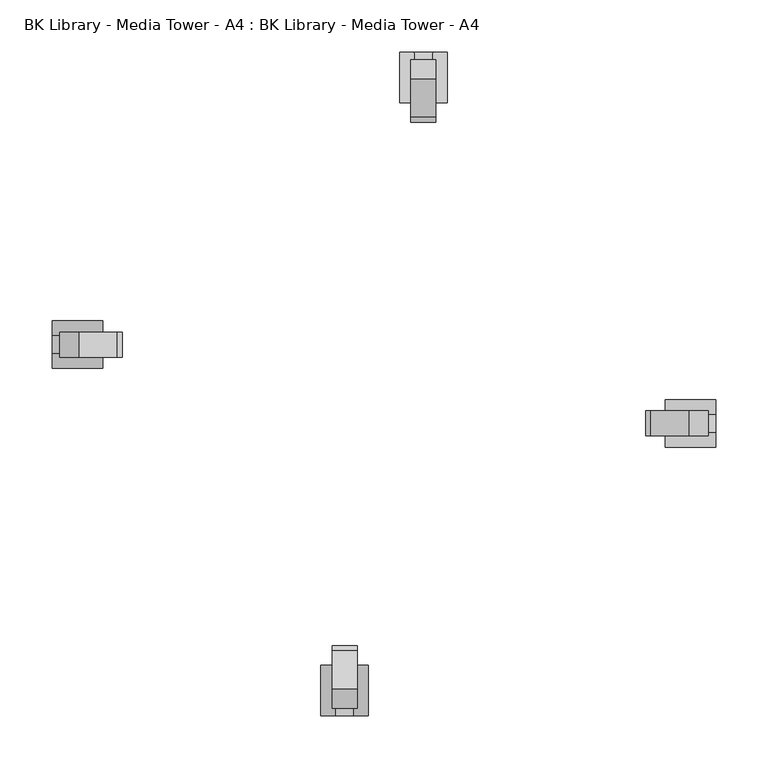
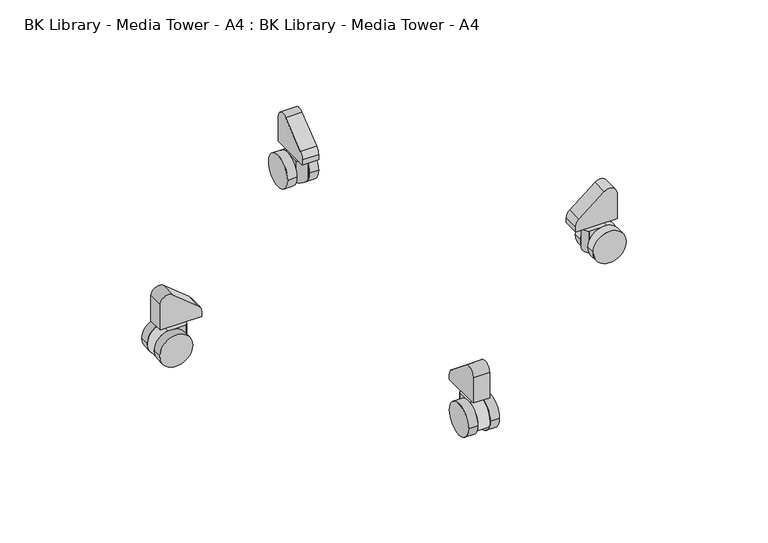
"""IFC4 building model written with IfcOpenShell, lengths in millimetres: furniture geometry, BK Library - Media Tower - A4 : BK Library - Media Tower - A4."""

from ifc_helpers import new_model, si_unit, point, frame, frame_2d, origin, place, context, project, spatial, polyline, circle_curve, trimmed, segment, composite_curve, outline, extrude, source, transform, mapped, element, save
from ifc_brep_helpers import plane_surface, cylinder_surface, advanced_brep


def bk_library_media_tower_a4_bk_library_media_tower_a4_1ec3d4eb(model_context):
    return source(origin(), model_context, "Body", "SolidModel", [
        advanced_brep(
        [(-60.25, -268.9172351, 24.0), (-60.25, -314.9920939, 14.5818999), (-60.25, -316.9172351, 24.0), (-60.25, -296.8361443, 47.6778831), (-46.75, -268.9172351, 24.0), (-46.75, -296.8361443, 47.6778831), (-46.75, -316.9172351, 24.0), (-46.75, -314.9920939, 14.5818999)],
        [
            (0, 1, circle_curve(frame((-60.25, -292.9172351, 24.0), z_axis=(-1.0, 0.0, 0.0), x_axis=(0.0, -1.0, 0.0)), 24.0)),
            (1, 2, circle_curve(frame((-60.25, -292.9172351, 24.0), z_axis=(-1.0, 0.0, 0.0), x_axis=(0.0, -1.0, 0.0)), 24.0)),
            (2, 3, circle_curve(frame((-60.25, -292.9172351, 24.0), z_axis=(-1.0, 0.0, 0.0), x_axis=(0.0, -1.0, 0.0)), 24.0)),
            (3, 0, circle_curve(frame((-60.25, -292.9172351, 24.0), z_axis=(-1.0, 0.0, 0.0), x_axis=(0.0, -1.0, 0.0)), 24.0)),
            (4, 5, circle_curve(frame((-46.75, -292.9172351, 24.0), z_axis=(1.0, 0.0, 0.0), x_axis=(0.0, -1.0, 0.0)), 24.0)),
            (5, 6, circle_curve(frame((-46.75, -292.9172351, 24.0), z_axis=(1.0, 0.0, 0.0), x_axis=(0.0, -1.0, 0.0)), 24.0)),
            (6, 7, circle_curve(frame((-46.75, -292.9172351, 24.0), z_axis=(1.0, 0.0, 0.0), x_axis=(0.0, -1.0, 0.0)), 24.0)),
            (7, 4, circle_curve(frame((-46.75, -292.9172351, 24.0), z_axis=(1.0, 0.0, 0.0), x_axis=(0.0, -1.0, 0.0)), 24.0)),
            (0, 4),
            (6, 2),
        ],
        [
            plane_surface(frame((-60.25, -316.9172351, 24.0), z_axis=(-1.0, 0.0, 0.0), x_axis=(0.0, 0.0, 1.0))),
            plane_surface(frame((-46.75, -316.9172351, 24.0), z_axis=(1.0, 0.0, 0.0), x_axis=(0.0, 0.0, -1.0))),
            cylinder_surface(frame((-46.75, -292.9172351, 24.0), z_axis=(-1.0, 0.0, 0.0), x_axis=(0.0, -1.0, 0.0)), 24.0),
        ],
        [
            (0, [[1, 2, 3, 4]]),
            (1, [[5, 6, 7, 8]]),
            (2, [[9, -8, -7, 10, -2, -1]]),
            (2, [[-9, -4, -3, -10, -6, -5]]),
        ],
    ),
        advanced_brep(
        [(-28.75, -268.9172351, 24.0), (-28.75, -314.9920939, 14.5818999), (-28.75, -316.9172351, 24.0), (-28.75, -296.8361443, 47.6778831), (-15.25, -268.9172351, 24.0), (-15.25, -296.8361443, 47.6778831), (-15.25, -316.9172351, 24.0), (-15.25, -314.9920939, 14.5818999)],
        [
            (0, 1, circle_curve(frame((-28.75, -292.9172351, 24.0), z_axis=(-1.0, 0.0, 0.0), x_axis=(0.0, -1.0, 0.0)), 24.0)),
            (1, 2, circle_curve(frame((-28.75, -292.9172351, 24.0), z_axis=(-1.0, 0.0, 0.0), x_axis=(0.0, -1.0, 0.0)), 24.0)),
            (2, 3, circle_curve(frame((-28.75, -292.9172351, 24.0), z_axis=(-1.0, 0.0, 0.0), x_axis=(0.0, -1.0, 0.0)), 24.0)),
            (3, 0, circle_curve(frame((-28.75, -292.9172351, 24.0), z_axis=(-1.0, 0.0, 0.0), x_axis=(0.0, -1.0, 0.0)), 24.0)),
            (4, 5, circle_curve(frame((-15.25, -292.9172351, 24.0), z_axis=(1.0, 0.0, 0.0), x_axis=(0.0, -1.0, 0.0)), 24.0)),
            (5, 6, circle_curve(frame((-15.25, -292.9172351, 24.0), z_axis=(1.0, 0.0, 0.0), x_axis=(0.0, -1.0, 0.0)), 24.0)),
            (6, 7, circle_curve(frame((-15.25, -292.9172351, 24.0), z_axis=(1.0, 0.0, 0.0), x_axis=(0.0, -1.0, 0.0)), 24.0)),
            (7, 4, circle_curve(frame((-15.25, -292.9172351, 24.0), z_axis=(1.0, 0.0, 0.0), x_axis=(0.0, -1.0, 0.0)), 24.0)),
            (0, 4),
            (6, 2),
        ],
        [
            plane_surface(frame((-28.75, -316.9172351, 24.0), z_axis=(-1.0, 0.0, 0.0), x_axis=(0.0, 0.0, 1.0))),
            plane_surface(frame((-15.25, -316.9172351, 24.0), z_axis=(1.0, 0.0, 0.0), x_axis=(0.0, 0.0, -1.0))),
            cylinder_surface(frame((-15.25, -292.9172351, 24.0), z_axis=(-1.0, 0.0, 0.0), x_axis=(0.0, -1.0, 0.0)), 24.0),
        ],
        [
            (0, [[1, 2, 3, 4]]),
            (1, [[5, 6, 7, 8]]),
            (2, [[9, -8, -7, 10, -2, -1]]),
            (2, [[-9, -4, -3, -10, -6, -5]]),
        ],
    ),
        advanced_brep(
        [(-28.75, -271.5561553, 47.6778831), (-29.125, -270.5639985, 47.6778831), (-46.375, -270.5639985, 47.6778831), (-46.75, -271.5561553, 47.6778831), (-46.75, -296.8361443, 47.6778831), (-28.75, -296.8361443, 47.6778831), (-46.75, -271.5561553, 14.5818999), (-46.375, -270.5639985, 14.5818999), (-29.125, -270.5639985, 14.5818999), (-28.75, -271.5561553, 14.5818999), (-28.75, -314.9920939, 14.5818999), (-46.75, -314.9920939, 14.5818999)],
        [
            (0, 1, circle_curve(frame((-30.25, -271.5561553, 47.6778831), z_axis=(0.0, 0.0, 1.0), x_axis=(0.0, -1.0, 0.0)), 1.5)),
            (1, 2, circle_curve(frame((-37.75, -278.1705336, 47.6778831), z_axis=(0.0, 0.0, 1.0), x_axis=(0.1438853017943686, -0.9895943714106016, 0.0)), 11.5)),
            (2, 3, circle_curve(frame((-45.25, -271.5561553, 47.6778831), z_axis=(0.0, 0.0, 1.0), x_axis=(0.0, -1.0, 0.0)), 1.5)),
            (3, 4),
            (4, 5),
            (5, 0),
            (6, 7, circle_curve(frame((-45.25, -271.5561553, 14.5818999), z_axis=(0.0, 0.0, -1.0), x_axis=(0.0, -1.0, 0.0)), 1.5)),
            (7, 8, circle_curve(frame((-37.75, -278.1705336, 14.5818999), z_axis=(0.0, 0.0, -1.0), x_axis=(0.1438853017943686, -0.9895943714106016, 0.0)), 11.5)),
            (8, 9, circle_curve(frame((-30.25, -271.5561553, 14.5818999), z_axis=(0.0, 0.0, -1.0), x_axis=(0.0, -1.0, 0.0)), 1.5)),
            (9, 10),
            (10, 11),
            (11, 6),
            (9, 0),
            (5, 10, circle_curve(frame((-28.75, -292.9172351, 24.0), z_axis=(1.0, 0.0, 0.0), x_axis=(0.0, -1.0, 0.0)), 24.0)),
            (1, 8),
            (7, 2),
            (3, 6),
            (11, 4, circle_curve(frame((-46.75, -292.9172351, 24.0), z_axis=(-1.0, 0.0, 0.0), x_axis=(0.0, -1.0, 0.0)), 24.0)),
        ],
        [
            plane_surface(frame((-28.75, -271.011623, 47.6778831), z_axis=(0.0, 0.0, 1.0), x_axis=(0.0, 1.0, 0.0))),
            plane_surface(frame((-28.75, -271.011623, 14.5818999), z_axis=(0.0, 0.0, -1.0), x_axis=(0.0, -1.0, 0.0))),
            plane_surface(frame((-28.75, -317.6314354, 47.6778831), z_axis=(1.0, 0.0, 0.0), x_axis=(0.0, 0.0, -1.0))),
            cylinder_surface(frame((-37.75, -278.1705336, 14.5818999), z_axis=(0.0, 0.0, 1.0000000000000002), x_axis=(0.1438853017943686, -0.9895943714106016, 0.0)), 11.5),
            plane_surface(frame((-46.75, -271.5561553, 47.6778831), z_axis=(-1.0, 0.0, 0.0), x_axis=(0.0, 0.0, -1.0))),
            cylinder_surface(frame((-30.25, -271.5561553, 14.5818999), z_axis=(0.0, 0.0, 1.0), x_axis=(0.0, -1.0, 0.0)), 1.5),
            cylinder_surface(frame((-45.25, -271.5561553, 14.5818999), z_axis=(0.0, 0.0, 1.0), x_axis=(0.0, -1.0, 0.0)), 1.5),
            cylinder_surface(frame((25.020464, -292.9172351, 24.0), z_axis=(1.0, 0.0, 0.0), x_axis=(0.0, -1.0, 0.0)), 24.0),
        ],
        [
            (0, [[1, 2, 3, 4, 5, 6]]),
            (1, [[7, 8, 9, 10, 11, 12]]),
            (2, [[13, -6, 14, -10]]),
            (3, [[-2, 15, -8, 16]]),
            (4, [[17, -12, 18, -4]]),
            (5, [[-1, -13, -9, -15]]),
            (6, [[-3, -16, -7, -17]]),
            (7, [[-5, -18, -11, -14]]),
        ],
    ),
        extrude(outline(composite_curve([segment(trimmed(circle_curve(frame_2d((-262.5018064, 63.3320803)), 12.5), [point((-254.6478241, 73.0565321))], [point((-250.0018064, 63.3316415))], False, "CARTESIAN"), True, "CONTINUOUS"), segment(polyline([(-250.0018064, 63.3316415), (-250.0020844, 55.4116211), (-310.0018064, 55.4116211), (-310.0018064, 94.1116211)]), True, "CONTINUOUS"), segment(trimmed(circle_curve(frame_2d((-298.7018064, 94.1116211)), 11.3), [point((-310.0018064, 94.1116211))], [point((-291.6018064, 102.9025255))], False, "CARTESIAN"), True, "CONTINUOUS"), segment(polyline([(-291.6018064, 102.9025255), (-254.6478241, 73.0565321)]), True, "CONTINUOUS")], self_intersect=False)), frame((-49.25, 0.0, 0.0), z_axis=(1.0, 0.0, 0.0), x_axis=(0.0, 1.0, 0.0)), (0.0, 0.0, 1.0), 23.5),
        advanced_brep(
        [(268.9172351, -60.25, 24.0), (314.9920939, -60.25, 14.5818999), (316.9172351, -60.25, 24.0), (296.8361443, -60.25, 47.6778831), (268.9172351, -46.75, 24.0), (296.8361443, -46.75, 47.6778831), (316.9172351, -46.75, 24.0), (314.9920939, -46.75, 14.5818999)],
        [
            (0, 1, circle_curve(frame((292.9172351, -60.25, 24.0), z_axis=(0.0, -1.0, 0.0), x_axis=(1.0, 0.0, 0.0)), 24.0)),
            (1, 2, circle_curve(frame((292.9172351, -60.25, 24.0), z_axis=(0.0, -1.0, 0.0), x_axis=(1.0, 0.0, 0.0)), 24.0)),
            (2, 3, circle_curve(frame((292.9172351, -60.25, 24.0), z_axis=(0.0, -1.0, 0.0), x_axis=(1.0, 0.0, 0.0)), 24.0)),
            (3, 0, circle_curve(frame((292.9172351, -60.25, 24.0), z_axis=(0.0, -1.0, 0.0), x_axis=(1.0, 0.0, 0.0)), 24.0)),
            (4, 5, circle_curve(frame((292.9172351, -46.75, 24.0), z_axis=(0.0, 1.0, 0.0), x_axis=(1.0, 0.0, 0.0)), 24.0)),
            (5, 6, circle_curve(frame((292.9172351, -46.75, 24.0), z_axis=(0.0, 1.0, 0.0), x_axis=(1.0, 0.0, 0.0)), 24.0)),
            (6, 7, circle_curve(frame((292.9172351, -46.75, 24.0), z_axis=(0.0, 1.0, 0.0), x_axis=(1.0, 0.0, 0.0)), 24.0)),
            (7, 4, circle_curve(frame((292.9172351, -46.75, 24.0), z_axis=(0.0, 1.0, 0.0), x_axis=(1.0, 0.0, 0.0)), 24.0)),
            (0, 4),
            (6, 2),
        ],
        [
            plane_surface(frame((316.9172351, -60.25, 24.0), z_axis=(0.0, -1.0, 0.0), x_axis=(0.0, 0.0, 1.0))),
            plane_surface(frame((316.9172351, -46.75, 24.0), z_axis=(0.0, 1.0, 0.0), x_axis=(0.0, 0.0, -1.0))),
            cylinder_surface(frame((292.9172351, -46.75, 24.0), z_axis=(0.0, -1.0, 0.0), x_axis=(1.0, 0.0, 0.0)), 24.0),
        ],
        [
            (0, [[1, 2, 3, 4]]),
            (1, [[5, 6, 7, 8]]),
            (2, [[9, -8, -7, 10, -2, -1]]),
            (2, [[-9, -4, -3, -10, -6, -5]]),
        ],
    ),
        advanced_brep(
        [(268.9172351, -28.75, 24.0), (314.9920939, -28.75, 14.5818999), (316.9172351, -28.75, 24.0), (296.8361443, -28.75, 47.6778831), (268.9172351, -15.25, 24.0), (296.8361443, -15.25, 47.6778831), (316.9172351, -15.25, 24.0), (314.9920939, -15.25, 14.5818999)],
        [
            (0, 1, circle_curve(frame((292.9172351, -28.75, 24.0), z_axis=(0.0, -1.0, 0.0), x_axis=(1.0, 0.0, 0.0)), 24.0)),
            (1, 2, circle_curve(frame((292.9172351, -28.75, 24.0), z_axis=(0.0, -1.0, 0.0), x_axis=(1.0, 0.0, 0.0)), 24.0)),
            (2, 3, circle_curve(frame((292.9172351, -28.75, 24.0), z_axis=(0.0, -1.0, 0.0), x_axis=(1.0, 0.0, 0.0)), 24.0)),
            (3, 0, circle_curve(frame((292.9172351, -28.75, 24.0), z_axis=(0.0, -1.0, 0.0), x_axis=(1.0, 0.0, 0.0)), 24.0)),
            (4, 5, circle_curve(frame((292.9172351, -15.25, 24.0), z_axis=(0.0, 1.0, 0.0), x_axis=(1.0, 0.0, 0.0)), 24.0)),
            (5, 6, circle_curve(frame((292.9172351, -15.25, 24.0), z_axis=(0.0, 1.0, 0.0), x_axis=(1.0, 0.0, 0.0)), 24.0)),
            (6, 7, circle_curve(frame((292.9172351, -15.25, 24.0), z_axis=(0.0, 1.0, 0.0), x_axis=(1.0, 0.0, 0.0)), 24.0)),
            (7, 4, circle_curve(frame((292.9172351, -15.25, 24.0), z_axis=(0.0, 1.0, 0.0), x_axis=(1.0, 0.0, 0.0)), 24.0)),
            (0, 4),
            (6, 2),
        ],
        [
            plane_surface(frame((316.9172351, -28.75, 24.0), z_axis=(0.0, -1.0, 0.0), x_axis=(0.0, 0.0, 1.0))),
            plane_surface(frame((316.9172351, -15.25, 24.0), z_axis=(0.0, 1.0, 0.0), x_axis=(0.0, 0.0, -1.0))),
            cylinder_surface(frame((292.9172351, -15.25, 24.0), z_axis=(0.0, -1.0, 0.0), x_axis=(1.0, 0.0, 0.0)), 24.0),
        ],
        [
            (0, [[1, 2, 3, 4]]),
            (1, [[5, 6, 7, 8]]),
            (2, [[9, -8, -7, 10, -2, -1]]),
            (2, [[-9, -4, -3, -10, -6, -5]]),
        ],
    ),
        advanced_brep(
        [(271.5561553, -28.75, 47.6778831), (270.5639985, -29.125, 47.6778831), (270.5639985, -46.375, 47.6778831), (271.5561553, -46.75, 47.6778831), (296.8361443, -46.75, 47.6778831), (296.8361443, -28.75, 47.6778831), (271.5561553, -46.75, 14.5818999), (270.5639985, -46.375, 14.5818999), (270.5639985, -29.125, 14.5818999), (271.5561553, -28.75, 14.5818999), (314.9920939, -28.75, 14.5818999), (314.9920939, -46.75, 14.5818999)],
        [
            (0, 1, circle_curve(frame((271.5561553, -30.25, 47.6778831), z_axis=(0.0, 0.0, 1.0), x_axis=(1.0, 0.0, 0.0)), 1.5)),
            (1, 2, circle_curve(frame((278.1705336, -37.75, 47.6778831), z_axis=(0.0, 0.0, 1.0), x_axis=(0.9895943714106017, 0.14388530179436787, 0.0)), 11.5)),
            (2, 3, circle_curve(frame((271.5561553, -45.25, 47.6778831), z_axis=(0.0, 0.0, 1.0), x_axis=(1.0, 0.0, 0.0)), 1.5)),
            (3, 4),
            (4, 5),
            (5, 0),
            (6, 7, circle_curve(frame((271.5561553, -45.25, 14.5818999), z_axis=(0.0, 0.0, -1.0), x_axis=(1.0, 0.0, 0.0)), 1.5)),
            (7, 8, circle_curve(frame((278.1705336, -37.75, 14.5818999), z_axis=(0.0, 0.0, -1.0), x_axis=(0.9895943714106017, 0.14388530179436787, 0.0)), 11.5)),
            (8, 9, circle_curve(frame((271.5561553, -30.25, 14.5818999), z_axis=(0.0, 0.0, -1.0), x_axis=(1.0, 0.0, 0.0)), 1.5)),
            (9, 10),
            (10, 11),
            (11, 6),
            (9, 0),
            (5, 10, circle_curve(frame((292.9172351, -28.75, 24.0), z_axis=(0.0, 1.0, 0.0), x_axis=(1.0, 0.0, 0.0)), 24.0)),
            (1, 8),
            (7, 2),
            (3, 6),
            (11, 4, circle_curve(frame((292.9172351, -46.75, 24.0), z_axis=(0.0, -1.0, 0.0), x_axis=(1.0, 0.0, 0.0)), 24.0)),
        ],
        [
            plane_surface(frame((271.011623, -28.75, 47.6778831), z_axis=(0.0, 0.0, 1.0), x_axis=(-1.0, 0.0, 0.0))),
            plane_surface(frame((271.011623, -28.75, 14.5818999), z_axis=(0.0, 0.0, -1.0), x_axis=(1.0, 0.0, 0.0))),
            plane_surface(frame((317.6314354, -28.75, 47.6778831), z_axis=(0.0, 1.0, 0.0), x_axis=(0.0, 0.0, -1.0))),
            cylinder_surface(frame((278.1705336, -37.75, 14.5818999), z_axis=(0.0, 0.0, 1.0000000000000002), x_axis=(0.9895943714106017, 0.14388530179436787, 0.0)), 11.5),
            plane_surface(frame((271.5561553, -46.75, 47.6778831), z_axis=(0.0, -1.0, 0.0), x_axis=(0.0, 0.0, -1.0))),
            cylinder_surface(frame((271.5561553, -30.25, 14.5818999), z_axis=(0.0, 0.0, 1.0), x_axis=(1.0, 0.0, 0.0)), 1.5),
            cylinder_surface(frame((271.5561553, -45.25, 14.5818999), z_axis=(0.0, 0.0, 1.0), x_axis=(1.0, 0.0, 0.0)), 1.5),
            cylinder_surface(frame((292.9172351, 25.020464, 24.0), z_axis=(0.0, 1.0, 0.0), x_axis=(1.0, 0.0, 0.0)), 24.0),
        ],
        [
            (0, [[1, 2, 3, 4, 5, 6]]),
            (1, [[7, 8, 9, 10, 11, 12]]),
            (2, [[13, -6, 14, -10]]),
            (3, [[-2, 15, -8, 16]]),
            (4, [[17, -12, 18, -4]]),
            (5, [[-1, -13, -9, -15]]),
            (6, [[-3, -16, -7, -17]]),
            (7, [[-5, -18, -11, -14]]),
        ],
    ),
        extrude(outline(composite_curve([segment(trimmed(circle_curve(frame_2d((63.3320803, 262.5018064)), 12.5), [point((73.0565321, 254.6478241))], [point((63.3316415, 250.0018064))], False, "CARTESIAN"), True, "CONTINUOUS"), segment(polyline([(63.3316415, 250.0018064), (55.4116211, 250.0020844), (55.4116211, 310.0018064), (94.1116211, 310.0018064)]), True, "CONTINUOUS"), segment(trimmed(circle_curve(frame_2d((94.1116211, 298.7018064)), 11.3), [point((94.1116211, 310.0018064))], [point((102.9025255, 291.6018064))], False, "CARTESIAN"), True, "CONTINUOUS"), segment(polyline([(102.9025255, 291.6018064), (73.0565321, 254.6478241)]), True, "CONTINUOUS")], self_intersect=False)), frame((0.0, -49.25, 0.0), z_axis=(0.0, 1.0, 0.0), x_axis=(0.0, 0.0, 1.0)), (0.0, 0.0, 1.0), 23.5),
        advanced_brep(
        [(60.25, 268.9172351, 24.0), (60.25, 314.9920939, 14.5818999), (60.25, 316.9172351, 24.0), (60.25, 296.8361443, 47.6778831), (46.75, 268.9172351, 24.0), (46.75, 296.8361443, 47.6778831), (46.75, 316.9172351, 24.0), (46.75, 314.9920939, 14.5818999)],
        [
            (0, 1, circle_curve(frame((60.25, 292.9172351, 24.0), z_axis=(1.0, 0.0, 0.0), x_axis=(0.0, 1.0, 0.0)), 24.0)),
            (1, 2, circle_curve(frame((60.25, 292.9172351, 24.0), z_axis=(1.0, 0.0, 0.0), x_axis=(0.0, 1.0, 0.0)), 24.0)),
            (2, 3, circle_curve(frame((60.25, 292.9172351, 24.0), z_axis=(1.0, 0.0, 0.0), x_axis=(0.0, 1.0, 0.0)), 24.0)),
            (3, 0, circle_curve(frame((60.25, 292.9172351, 24.0), z_axis=(1.0, 0.0, 0.0), x_axis=(0.0, 1.0, 0.0)), 24.0)),
            (4, 5, circle_curve(frame((46.75, 292.9172351, 24.0), z_axis=(-1.0, 0.0, 0.0), x_axis=(0.0, 1.0, 0.0)), 24.0)),
            (5, 6, circle_curve(frame((46.75, 292.9172351, 24.0), z_axis=(-1.0, 0.0, 0.0), x_axis=(0.0, 1.0, 0.0)), 24.0)),
            (6, 7, circle_curve(frame((46.75, 292.9172351, 24.0), z_axis=(-1.0, 0.0, 0.0), x_axis=(0.0, 1.0, 0.0)), 24.0)),
            (7, 4, circle_curve(frame((46.75, 292.9172351, 24.0), z_axis=(-1.0, 0.0, 0.0), x_axis=(0.0, 1.0, 0.0)), 24.0)),
            (0, 4),
            (6, 2),
        ],
        [
            plane_surface(frame((60.25, 316.9172351, 24.0), z_axis=(1.0, 0.0, 0.0), x_axis=(0.0, 0.0, 1.0))),
            plane_surface(frame((46.75, 316.9172351, 24.0), z_axis=(-1.0, 0.0, 0.0), x_axis=(0.0, 0.0, -1.0))),
            cylinder_surface(frame((46.75, 292.9172351, 24.0), z_axis=(1.0, 0.0, 0.0), x_axis=(0.0, 1.0, 0.0)), 24.0),
        ],
        [
            (0, [[1, 2, 3, 4]]),
            (1, [[5, 6, 7, 8]]),
            (2, [[9, -8, -7, 10, -2, -1]]),
            (2, [[-9, -4, -3, -10, -6, -5]]),
        ],
    ),
        advanced_brep(
        [(28.75, 268.9172351, 24.0), (28.75, 314.9920939, 14.5818999), (28.75, 316.9172351, 24.0), (28.75, 296.8361443, 47.6778831), (15.25, 268.9172351, 24.0), (15.25, 296.8361443, 47.6778831), (15.25, 316.9172351, 24.0), (15.25, 314.9920939, 14.5818999)],
        [
            (0, 1, circle_curve(frame((28.75, 292.9172351, 24.0), z_axis=(1.0, 0.0, 0.0), x_axis=(0.0, 1.0, 0.0)), 24.0)),
            (1, 2, circle_curve(frame((28.75, 292.9172351, 24.0), z_axis=(1.0, 0.0, 0.0), x_axis=(0.0, 1.0, 0.0)), 24.0)),
            (2, 3, circle_curve(frame((28.75, 292.9172351, 24.0), z_axis=(1.0, 0.0, 0.0), x_axis=(0.0, 1.0, 0.0)), 24.0)),
            (3, 0, circle_curve(frame((28.75, 292.9172351, 24.0), z_axis=(1.0, 0.0, 0.0), x_axis=(0.0, 1.0, 0.0)), 24.0)),
            (4, 5, circle_curve(frame((15.25, 292.9172351, 24.0), z_axis=(-1.0, 0.0, 0.0), x_axis=(0.0, 1.0, 0.0)), 24.0)),
            (5, 6, circle_curve(frame((15.25, 292.9172351, 24.0), z_axis=(-1.0, 0.0, 0.0), x_axis=(0.0, 1.0, 0.0)), 24.0)),
            (6, 7, circle_curve(frame((15.25, 292.9172351, 24.0), z_axis=(-1.0, 0.0, 0.0), x_axis=(0.0, 1.0, 0.0)), 24.0)),
            (7, 4, circle_curve(frame((15.25, 292.9172351, 24.0), z_axis=(-1.0, 0.0, 0.0), x_axis=(0.0, 1.0, 0.0)), 24.0)),
            (0, 4),
            (6, 2),
        ],
        [
            plane_surface(frame((28.75, 316.9172351, 24.0), z_axis=(1.0, 0.0, 0.0), x_axis=(0.0, 0.0, 1.0))),
            plane_surface(frame((15.25, 316.9172351, 24.0), z_axis=(-1.0, 0.0, 0.0), x_axis=(0.0, 0.0, -1.0))),
            cylinder_surface(frame((15.25, 292.9172351, 24.0), z_axis=(1.0, 0.0, 0.0), x_axis=(0.0, 1.0, 0.0)), 24.0),
        ],
        [
            (0, [[1, 2, 3, 4]]),
            (1, [[5, 6, 7, 8]]),
            (2, [[9, -8, -7, 10, -2, -1]]),
            (2, [[-9, -4, -3, -10, -6, -5]]),
        ],
    ),
        advanced_brep(
        [(28.75, 271.5561553, 47.6778831), (29.125, 270.5639985, 47.6778831), (46.375, 270.5639985, 47.6778831), (46.75, 271.5561553, 47.6778831), (46.75, 296.8361443, 47.6778831), (28.75, 296.8361443, 47.6778831), (46.75, 271.5561553, 14.5818999), (46.375, 270.5639985, 14.5818999), (29.125, 270.5639985, 14.5818999), (28.75, 271.5561553, 14.5818999), (28.75, 314.9920939, 14.5818999), (46.75, 314.9920939, 14.5818999)],
        [
            (0, 1, circle_curve(frame((30.25, 271.5561553, 47.6778831), z_axis=(0.0, 0.0, 1.0), x_axis=(0.0, 1.0, 0.0)), 1.5)),
            (1, 2, circle_curve(frame((37.75, 278.1705336, 47.6778831), z_axis=(0.0, 0.0, 1.0), x_axis=(-0.1438853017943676, 0.9895943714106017, 0.0)), 11.5)),
            (2, 3, circle_curve(frame((45.25, 271.5561553, 47.6778831), z_axis=(0.0, 0.0, 1.0), x_axis=(0.0, 1.0, 0.0)), 1.5)),
            (3, 4),
            (4, 5),
            (5, 0),
            (6, 7, circle_curve(frame((45.25, 271.5561553, 14.5818999), z_axis=(0.0, 0.0, -1.0), x_axis=(0.0, 1.0, 0.0)), 1.5)),
            (7, 8, circle_curve(frame((37.75, 278.1705336, 14.5818999), z_axis=(0.0, 0.0, -1.0), x_axis=(-0.1438853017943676, 0.9895943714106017, 0.0)), 11.5)),
            (8, 9, circle_curve(frame((30.25, 271.5561553, 14.5818999), z_axis=(0.0, 0.0, -1.0), x_axis=(0.0, 1.0, 0.0)), 1.5)),
            (9, 10),
            (10, 11),
            (11, 6),
            (9, 0),
            (5, 10, circle_curve(frame((28.75, 292.9172351, 24.0), z_axis=(-1.0, 0.0, 0.0), x_axis=(0.0, 1.0, 0.0)), 24.0)),
            (1, 8),
            (7, 2),
            (3, 6),
            (11, 4, circle_curve(frame((46.75, 292.9172351, 24.0), z_axis=(1.0, 0.0, 0.0), x_axis=(0.0, 1.0, 0.0)), 24.0)),
        ],
        [
            plane_surface(frame((28.75, 271.011623, 47.6778831), z_axis=(0.0, 0.0, 1.0), x_axis=(0.0, -1.0, 0.0))),
            plane_surface(frame((28.75, 271.011623, 14.5818999), z_axis=(0.0, 0.0, -1.0), x_axis=(0.0, 1.0, 0.0))),
            plane_surface(frame((28.75, 317.6314354, 47.6778831), z_axis=(-1.0, 0.0, 0.0), x_axis=(0.0, 0.0, -1.0))),
            cylinder_surface(frame((37.75, 278.1705336, 14.5818999), z_axis=(0.0, 0.0, 1.0000000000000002), x_axis=(-0.1438853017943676, 0.9895943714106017, 0.0)), 11.5),
            plane_surface(frame((46.75, 271.5561553, 47.6778831), z_axis=(1.0, 0.0, 0.0), x_axis=(0.0, 0.0, -1.0))),
            cylinder_surface(frame((30.25, 271.5561553, 14.5818999), z_axis=(0.0, 0.0, 1.0), x_axis=(0.0, 1.0, 0.0)), 1.5),
            cylinder_surface(frame((45.25, 271.5561553, 14.5818999), z_axis=(0.0, 0.0, 1.0), x_axis=(0.0, 1.0, 0.0)), 1.5),
            cylinder_surface(frame((-25.020464, 292.9172351, 24.0), z_axis=(-1.0, 0.0, 0.0), x_axis=(0.0, 1.0, 0.0)), 24.0),
        ],
        [
            (0, [[1, 2, 3, 4, 5, 6]]),
            (1, [[7, 8, 9, 10, 11, 12]]),
            (2, [[13, -6, 14, -10]]),
            (3, [[-2, 15, -8, 16]]),
            (4, [[17, -12, 18, -4]]),
            (5, [[-1, -13, -9, -15]]),
            (6, [[-3, -16, -7, -17]]),
            (7, [[-5, -18, -11, -14]]),
        ],
    ),
        extrude(outline(composite_curve([segment(polyline([(254.6478241, 73.0565321), (291.6018064, 102.9025255)]), True, "CONTINUOUS"), segment(trimmed(circle_curve(frame_2d((298.7018064, 94.1116211)), 11.3), [point((291.6018064, 102.9025255))], [point((310.0018064, 94.1116211))], False, "CARTESIAN"), True, "CONTINUOUS"), segment(polyline([(310.0018064, 94.1116211), (310.0018064, 55.4116211), (250.0020844, 55.4116211), (250.0018064, 63.3316415)]), True, "CONTINUOUS"), segment(trimmed(circle_curve(frame_2d((262.5018064, 63.3320803)), 12.5), [point((250.0018064, 63.3316415))], [point((254.6478241, 73.0565321))], False, "CARTESIAN"), True, "CONTINUOUS")], self_intersect=False)), frame((25.75, 0.0, 0.0), z_axis=(1.0, 0.0, 0.0), x_axis=(0.0, 1.0, 0.0)), (0.0, 0.0, 1.0), 23.5),
        extrude(outline(composite_curve([segment(trimmed(circle_curve(frame_2d((24.0, -292.9172351)), 24.0), [point((24.0, -268.9172351))], [point((24.0, -316.9172351))], False, "CARTESIAN"), True, "CONTINUOUS"), segment(trimmed(circle_curve(frame_2d((24.0, -292.9172351)), 24.0), [point((24.0, -316.9172351))], [point((24.0, -268.9172351))], False, "CARTESIAN"), True, "CONTINUOUS")], self_intersect=False)), frame((0.0, 46.75, 0.0), z_axis=(0.0, 1.0, 0.0), x_axis=(0.0, 0.0, 1.0)), (0.0, 0.0, 1.0), 13.5),
        extrude(outline(composite_curve([segment(trimmed(circle_curve(frame_2d((24.0, -292.9172351)), 24.0), [point((24.0, -268.9172351))], [point((24.0, -316.9172351))], False, "CARTESIAN"), True, "CONTINUOUS"), segment(trimmed(circle_curve(frame_2d((24.0, -292.9172351)), 24.0), [point((24.0, -316.9172351))], [point((24.0, -268.9172351))], False, "CARTESIAN"), True, "CONTINUOUS")], self_intersect=False)), frame((0.0, 15.25, 0.0), z_axis=(0.0, 1.0, 0.0), x_axis=(0.0, 0.0, 1.0)), (0.0, 0.0, 1.0), 13.5),
        extrude(outline(composite_curve([segment(polyline([(73.0565321, -254.6478241), (102.9025255, -291.6018064)]), True, "CONTINUOUS"), segment(trimmed(circle_curve(frame_2d((94.1116211, -298.7018064)), 11.3), [point((102.9025255, -291.6018064))], [point((94.1116211, -310.0018064))], False, "CARTESIAN"), True, "CONTINUOUS"), segment(polyline([(94.1116211, -310.0018064), (55.4116211, -310.0018064), (55.4116211, -250.0020844), (63.3316415, -250.0018064)]), True, "CONTINUOUS"), segment(trimmed(circle_curve(frame_2d((63.3320803, -262.5018064)), 12.5), [point((63.3316415, -250.0018064))], [point((73.0565321, -254.6478241))], False, "CARTESIAN"), True, "CONTINUOUS")], self_intersect=False)), frame((0.0, 25.75, 0.0), z_axis=(0.0, 1.0, 0.0), x_axis=(0.0, 0.0, 1.0)), (0.0, 0.0, 1.0), 23.5),
        advanced_brep(
        [(-271.5561553, 28.75, 47.6778831), (-270.5639985, 29.125, 47.6778831), (-270.5639985, 46.375, 47.6778831), (-271.5561553, 46.75, 47.6778831), (-296.8361443, 46.75, 47.6778831), (-296.8361443, 28.75, 47.6778831), (-271.5561553, 46.75, 14.5818999), (-270.5639985, 46.375, 14.5818999), (-270.5639985, 29.125, 14.5818999), (-271.5561553, 28.75, 14.5818999), (-314.9920939, 28.75, 14.5818999), (-314.9920939, 46.75, 14.5818999)],
        [
            (0, 1, circle_curve(frame((-271.5561553, 30.25, 47.6778831), z_axis=(0.0, 0.0, 1.0), x_axis=(-1.0, 0.0, 0.0)), 1.5)),
            (1, 2, circle_curve(frame((-278.1705336, 37.75, 47.6778831), z_axis=(0.0, 0.0, 1.0), x_axis=(-0.9895943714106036, -0.14388530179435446, 0.0)), 11.5)),
            (2, 3, circle_curve(frame((-271.5561553, 45.25, 47.6778831), z_axis=(0.0, 0.0, 1.0), x_axis=(-1.0, 0.0, 0.0)), 1.5)),
            (3, 4),
            (4, 5),
            (5, 0),
            (6, 7, circle_curve(frame((-271.5561553, 45.25, 14.5818999), z_axis=(0.0, 0.0, -1.0), x_axis=(-1.0, 0.0, 0.0)), 1.5)),
            (7, 8, circle_curve(frame((-278.1705336, 37.75, 14.5818999), z_axis=(0.0, 0.0, -1.0), x_axis=(-0.9895943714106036, -0.14388530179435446, 0.0)), 11.5)),
            (8, 9, circle_curve(frame((-271.5561553, 30.25, 14.5818999), z_axis=(0.0, 0.0, -1.0), x_axis=(-1.0, 0.0, 0.0)), 1.5)),
            (9, 10),
            (10, 11),
            (11, 6),
            (9, 0),
            (5, 10, circle_curve(frame((-292.9172351, 28.75, 24.0), z_axis=(0.0, -1.0, 0.0), x_axis=(-1.0, 0.0, 0.0)), 24.0)),
            (1, 8),
            (7, 2),
            (3, 6),
            (11, 4, circle_curve(frame((-292.9172351, 46.75, 24.0), z_axis=(0.0, 1.0, 0.0), x_axis=(-1.0, 0.0, 0.0)), 24.0)),
        ],
        [
            plane_surface(frame((-271.011623, 28.75, 47.6778831), z_axis=(0.0, 0.0, 1.0), x_axis=(1.0, 0.0, 0.0))),
            plane_surface(frame((-271.011623, 28.75, 14.5818999), z_axis=(0.0, 0.0, -1.0), x_axis=(-1.0, 0.0, 0.0))),
            plane_surface(frame((-317.6314354, 28.75, 47.6778831), z_axis=(0.0, -1.0, 0.0), x_axis=(0.0, 0.0, -1.0))),
            cylinder_surface(frame((-278.1705336, 37.75, 14.5818999), z_axis=(0.0, 0.0, 1.0), x_axis=(-0.9895943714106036, -0.14388530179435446, 0.0)), 11.5),
            plane_surface(frame((-271.5561553, 46.75, 47.6778831), z_axis=(0.0, 1.0, 0.0), x_axis=(0.0, 0.0, -1.0))),
            cylinder_surface(frame((-271.5561553, 30.25, 14.5818999), z_axis=(0.0, 0.0, 1.0), x_axis=(-1.0, 0.0, 0.0)), 1.5),
            cylinder_surface(frame((-271.5561553, 45.25, 14.5818999), z_axis=(0.0, 0.0, 1.0), x_axis=(-1.0, 0.0, 0.0)), 1.5),
            cylinder_surface(frame((-292.9172351, -25.020464, 24.0), z_axis=(0.0, -1.0, 0.0), x_axis=(-1.0, 0.0, 0.0)), 24.0),
        ],
        [
            (0, [[1, 2, 3, 4, 5, 6]]),
            (1, [[7, 8, 9, 10, 11, 12]]),
            (2, [[13, -6, 14, -10]]),
            (3, [[-2, 15, -8, 16]]),
            (4, [[17, -12, 18, -4]]),
            (5, [[-1, -13, -9, -15]]),
            (6, [[-3, -16, -7, -17]]),
            (7, [[-5, -18, -11, -14]]),
        ],
    ),
    ])


if __name__ == "__main__":
    model = new_model("IFC4")
    model_context = context("Model", 3, world=origin())
    ifc_project = project(units=[si_unit("LENGTHUNIT", "METRE", prefix="MILLI")], contexts=[model_context])
    site = spatial("IfcSite", under=ifc_project)
    building = spatial("IfcBuilding", under=site)
    placement = place(None, origin())
    bk_library_media_tower_a4_bk_library_media_tower_a4_shape = bk_library_media_tower_a4_bk_library_media_tower_a4_1ec3d4eb(model_context)
    element("IfcFurniture", 1, ObjectType="BK Library - Media Tower - A4 : BK Library - Media Tower - A4", at=placement, inside=building, context=model_context, shape_type="MappedRepresentation", body=[
        mapped(bk_library_media_tower_a4_bk_library_media_tower_a4_shape, transform((0.0, 0.0, 0.0), x_axis=(1.0, 0.0, 0.0), y_axis=(0.0, 1.0, 0.0), z_axis=(0.0, 0.0, 1.0))),
    ])
    save(model, "model.ifc")
